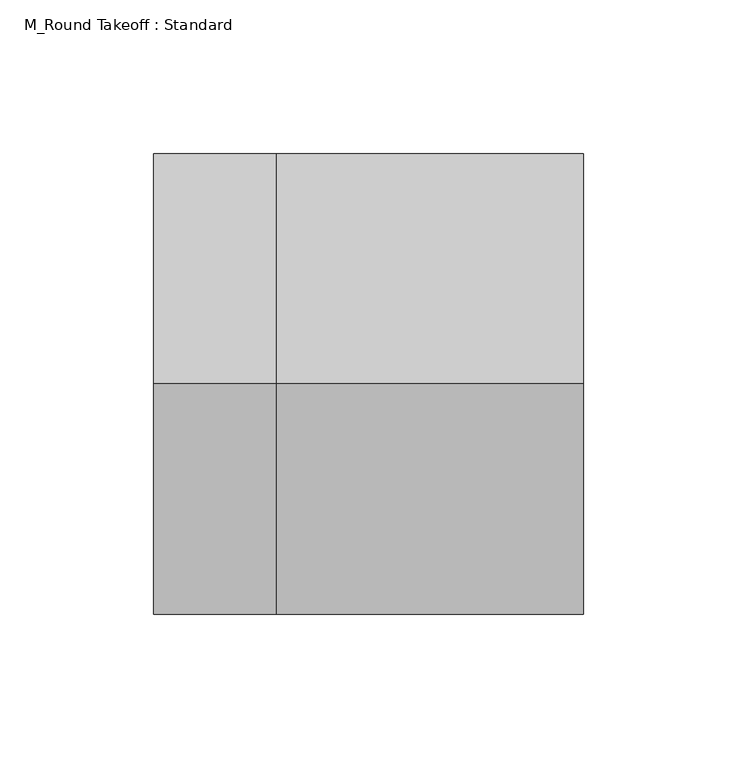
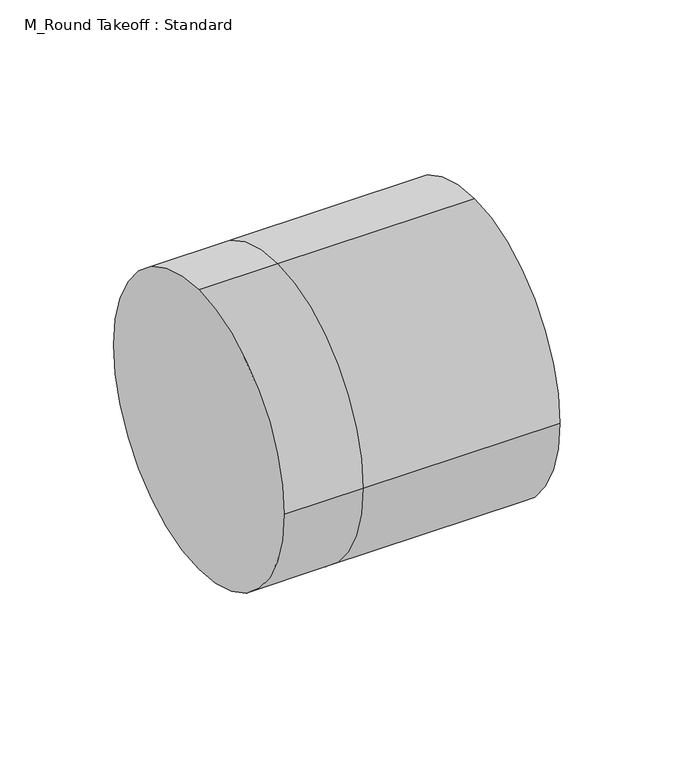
"""IFC4 building model written with IfcOpenShell, lengths in millimetres: duct fitting geometry, M_Round Takeoff : Standard."""

from ifc_helpers import new_model, si_unit, frame, origin, place, context, project, spatial, circle_curve, source, transform, mapped, element, save
from ifc_brep_helpers import plane_surface, cylinder_surface, advanced_brep


def m_round_takeoff_standard_fa4652c9(model_context):
    return source(origin(), model_context, "Body", "AdvancedBrep", [
        advanced_brep(
        [(-39.9949392, 0.0, 75.0), (-39.9949392, 75.0, 0.0), (-39.9949392, 0.0, -75.0), (-39.9949392, -75.0, 0.0), (0.0, -75.0, 0.0), (0.0, 0.0, 75.0), (0.0, 0.0, -75.0), (0.0, 75.0, 0.0), (100.0, 0.0, 75.0), (100.0, -75.0, 0.0), (100.0, 0.0, -75.0), (100.0, 75.0, 0.0)],
        [
            (0, 1, circle_curve(frame((-39.9949392, 0.0, 0.0), z_axis=(-1.0, 0.0, 0.0), x_axis=(0.0, -1.0, 0.0)), 75.0)),
            (1, 2, circle_curve(frame((-39.9949392, 0.0, 0.0), z_axis=(-1.0, 0.0, 0.0), x_axis=(0.0, -1.0, 0.0)), 75.0)),
            (2, 3, circle_curve(frame((-39.9949392, 0.0, 0.0), z_axis=(-1.0, 0.0, 0.0), x_axis=(0.0, -1.0, 0.0)), 75.0)),
            (3, 0, circle_curve(frame((-39.9949392, 0.0, 0.0), z_axis=(-1.0, 0.0, 0.0), x_axis=(0.0, -1.0, 0.0)), 75.0)),
            (3, 4),
            (4, 5, circle_curve(frame((0.0, 0.0, 0.0), z_axis=(-1.0, 0.0, 0.0), x_axis=(0.0, -1.0, 0.0)), 75.0)),
            (5, 0),
            (2, 6),
            (6, 4, circle_curve(frame((0.0, 0.0, 0.0), z_axis=(-1.0, 0.0, 0.0), x_axis=(0.0, -1.0, 0.0)), 75.0)),
            (1, 7),
            (7, 6, circle_curve(frame((0.0, 0.0, 0.0), z_axis=(-1.0, 0.0, 0.0), x_axis=(0.0, -1.0, 0.0)), 75.0)),
            (5, 7, circle_curve(frame((0.0, 0.0, 0.0), z_axis=(-1.0, 0.0, 0.0), x_axis=(0.0, -1.0, 0.0)), 75.0)),
            (8, 9, circle_curve(frame((100.0, 0.0, 0.0), z_axis=(1.0, 0.0, 0.0), x_axis=(0.0, -1.0, 0.0)), 75.0)),
            (9, 10, circle_curve(frame((100.0, 0.0, 0.0), z_axis=(1.0, 0.0, 0.0), x_axis=(0.0, -1.0, 0.0)), 75.0)),
            (10, 11, circle_curve(frame((100.0, 0.0, 0.0), z_axis=(1.0, 0.0, 0.0), x_axis=(0.0, -1.0, 0.0)), 75.0)),
            (11, 8, circle_curve(frame((100.0, 0.0, 0.0), z_axis=(1.0, 0.0, 0.0), x_axis=(0.0, -1.0, 0.0)), 75.0)),
            (8, 5),
            (4, 9),
            (6, 10),
            (7, 11),
        ],
        [
            plane_surface(frame((-39.9949392, 0.0, 0.0), z_axis=(-1.0, 0.0, 0.0), x_axis=(0.0, 0.0, 1.0))),
            cylinder_surface(frame((-39.9949392, 0.0, 0.0), z_axis=(-1.0, 0.0, 0.0), x_axis=(0.0, -1.0, 0.0)), 75.0),
            plane_surface(frame((100.0, 0.0, 0.0), z_axis=(1.0, 0.0, 0.0), x_axis=(0.0, 0.0, 1.0))),
            cylinder_surface(frame((0.0, 0.0, 0.0), z_axis=(-1.0, 0.0, 0.0), x_axis=(0.0, -1.0, 0.0)), 75.0),
        ],
        [
            (0, [[1, 2, 3, 4]]),
            (1, [[5, 6, 7, -4]]),
            (1, [[8, 9, -5, -3]]),
            (1, [[10, 11, -8, -2]]),
            (1, [[-7, 12, -10, -1]]),
            (2, [[13, 14, 15, 16]]),
            (3, [[17, -6, 18, -13]]),
            (3, [[-18, -9, 19, -14]]),
            (3, [[-19, -11, 20, -15]]),
            (3, [[-20, -12, -17, -16]]),
        ],
    ),
        advanced_brep(
        [(100.0, 0.0, 75.0), (100.0, -75.0, 0.0), (100.0, 0.0, -75.0), (100.0, 75.0, 0.0), (0.0, 0.0, 75.0), (0.0, -75.0, 0.0), (0.0, 0.0, -75.0), (0.0, 75.0, 0.0), (-39.9949392, 0.0, 75.0), (-39.9949392, 75.0, 0.0), (-39.9949392, 0.0, -75.0), (-39.9949392, -75.0, 0.0)],
        [
            (0, 1, circle_curve(frame((100.0, 0.0, 0.0), z_axis=(1.0, 0.0, 0.0), x_axis=(0.0, -1.0, 0.0)), 75.0)),
            (1, 2, circle_curve(frame((100.0, 0.0, 0.0), z_axis=(1.0, 0.0, 0.0), x_axis=(0.0, -1.0, 0.0)), 75.0)),
            (2, 3, circle_curve(frame((100.0, 0.0, 0.0), z_axis=(1.0, 0.0, 0.0), x_axis=(0.0, -1.0, 0.0)), 75.0)),
            (3, 0, circle_curve(frame((100.0, 0.0, 0.0), z_axis=(1.0, 0.0, 0.0), x_axis=(0.0, -1.0, 0.0)), 75.0)),
            (0, 4),
            (4, 5, circle_curve(frame((0.0, 0.0, 0.0), z_axis=(1.0, 0.0, 0.0), x_axis=(0.0, -1.0, 0.0)), 75.0)),
            (5, 1),
            (5, 6, circle_curve(frame((0.0, 0.0, 0.0), z_axis=(1.0, 0.0, 0.0), x_axis=(0.0, -1.0, 0.0)), 75.0)),
            (6, 2),
            (6, 7, circle_curve(frame((0.0, 0.0, 0.0), z_axis=(1.0, 0.0, 0.0), x_axis=(0.0, -1.0, 0.0)), 75.0)),
            (7, 3),
            (7, 4, circle_curve(frame((0.0, 0.0, 0.0), z_axis=(1.0, 0.0, 0.0), x_axis=(0.0, -1.0, 0.0)), 75.0)),
            (8, 9, circle_curve(frame((-39.9949392, 0.0, 0.0), z_axis=(-1.0, 0.0, 0.0), x_axis=(0.0, -1.0, 0.0)), 75.0)),
            (9, 10, circle_curve(frame((-39.9949392, 0.0, 0.0), z_axis=(-1.0, 0.0, 0.0), x_axis=(0.0, -1.0, 0.0)), 75.0)),
            (10, 11, circle_curve(frame((-39.9949392, 0.0, 0.0), z_axis=(-1.0, 0.0, 0.0), x_axis=(0.0, -1.0, 0.0)), 75.0)),
            (11, 8, circle_curve(frame((-39.9949392, 0.0, 0.0), z_axis=(-1.0, 0.0, 0.0), x_axis=(0.0, -1.0, 0.0)), 75.0)),
            (11, 5),
            (4, 8),
            (10, 6),
            (9, 7),
        ],
        [
            plane_surface(frame((100.0, 0.0, 0.0), z_axis=(1.0, 0.0, 0.0), x_axis=(0.0, 0.0, 1.0))),
            cylinder_surface(frame((0.0, 0.0, 0.0), z_axis=(-1.0, 0.0, 0.0), x_axis=(0.0, -1.0, 0.0)), 75.0),
            plane_surface(frame((-39.9949392, 0.0, 0.0), z_axis=(-1.0, 0.0, 0.0), x_axis=(0.0, 0.0, 1.0))),
            cylinder_surface(frame((-39.9949392, 0.0, 0.0), z_axis=(-1.0, 0.0, 0.0), x_axis=(0.0, -1.0, 0.0)), 75.0),
        ],
        [
            (0, [[1, 2, 3, 4]]),
            (1, [[5, 6, 7, -1]]),
            (1, [[-7, 8, 9, -2]]),
            (1, [[-9, 10, 11, -3]]),
            (1, [[-11, 12, -5, -4]]),
            (2, [[13, 14, 15, 16]]),
            (3, [[17, -6, 18, -16]]),
            (3, [[19, -8, -17, -15]]),
            (3, [[20, -10, -19, -14]]),
            (3, [[-18, -12, -20, -13]]),
        ],
    ),
        advanced_brep(
        [(-39.9949392, 0.0, 75.0), (-39.9949392, 75.0, 0.0), (-39.9949392, 0.0, -75.0), (-39.9949392, -75.0, 0.0), (0.0, -75.0, 0.0), (0.0, 0.0, 75.0), (0.0, 0.0, -75.0), (0.0, 75.0, 0.0), (100.0, 0.0, 75.0), (100.0, -75.0, 0.0), (100.0, 0.0, -75.0), (100.0, 75.0, 0.0)],
        [
            (0, 1, circle_curve(frame((-39.9949392, 0.0, 0.0), z_axis=(-1.0, 0.0, 0.0), x_axis=(0.0, -1.0, 0.0)), 75.0)),
            (1, 2, circle_curve(frame((-39.9949392, 0.0, 0.0), z_axis=(-1.0, 0.0, 0.0), x_axis=(0.0, -1.0, 0.0)), 75.0)),
            (2, 3, circle_curve(frame((-39.9949392, 0.0, 0.0), z_axis=(-1.0, 0.0, 0.0), x_axis=(0.0, -1.0, 0.0)), 75.0)),
            (3, 0, circle_curve(frame((-39.9949392, 0.0, 0.0), z_axis=(-1.0, 0.0, 0.0), x_axis=(0.0, -1.0, 0.0)), 75.0)),
            (3, 4),
            (4, 5, circle_curve(frame((0.0, 0.0, 0.0), z_axis=(-1.0, 0.0, 0.0), x_axis=(0.0, -1.0, 0.0)), 75.0)),
            (5, 0),
            (2, 6),
            (6, 4, circle_curve(frame((0.0, 0.0, 0.0), z_axis=(-1.0, 0.0, 0.0), x_axis=(0.0, -1.0, 0.0)), 75.0)),
            (1, 7),
            (7, 6, circle_curve(frame((0.0, 0.0, 0.0), z_axis=(-1.0, 0.0, 0.0), x_axis=(0.0, -1.0, 0.0)), 75.0)),
            (5, 7, circle_curve(frame((0.0, 0.0, 0.0), z_axis=(-1.0, 0.0, 0.0), x_axis=(0.0, -1.0, 0.0)), 75.0)),
            (8, 9, circle_curve(frame((100.0, 0.0, 0.0), z_axis=(1.0, 0.0, 0.0), x_axis=(0.0, -1.0, 0.0)), 75.0)),
            (9, 10, circle_curve(frame((100.0, 0.0, 0.0), z_axis=(1.0, 0.0, 0.0), x_axis=(0.0, -1.0, 0.0)), 75.0)),
            (10, 11, circle_curve(frame((100.0, 0.0, 0.0), z_axis=(1.0, 0.0, 0.0), x_axis=(0.0, -1.0, 0.0)), 75.0)),
            (11, 8, circle_curve(frame((100.0, 0.0, 0.0), z_axis=(1.0, 0.0, 0.0), x_axis=(0.0, -1.0, 0.0)), 75.0)),
            (8, 5),
            (4, 9),
            (6, 10),
            (7, 11),
        ],
        [
            plane_surface(frame((-39.9949392, 0.0, 0.0), z_axis=(-1.0, 0.0, 0.0), x_axis=(0.0, 0.0, 1.0))),
            cylinder_surface(frame((-39.9949392, 0.0, 0.0), z_axis=(-1.0, 0.0, 0.0), x_axis=(0.0, -1.0, 0.0)), 75.0),
            plane_surface(frame((100.0, 0.0, 0.0), z_axis=(1.0, 0.0, 0.0), x_axis=(0.0, 0.0, 1.0))),
            cylinder_surface(frame((0.0, 0.0, 0.0), z_axis=(-1.0, 0.0, 0.0), x_axis=(0.0, -1.0, 0.0)), 75.0),
        ],
        [
            (0, [[1, 2, 3, 4]]),
            (1, [[5, 6, 7, -4]]),
            (1, [[8, 9, -5, -3]]),
            (1, [[10, 11, -8, -2]]),
            (1, [[-7, 12, -10, -1]]),
            (2, [[13, 14, 15, 16]]),
            (3, [[17, -6, 18, -13]]),
            (3, [[-18, -9, 19, -14]]),
            (3, [[-19, -11, 20, -15]]),
            (3, [[-20, -12, -17, -16]]),
        ],
    ),
    ])


if __name__ == "__main__":
    model = new_model("IFC4")
    model_context = context("Model", 3, world=origin())
    ifc_project = project(units=[si_unit("LENGTHUNIT", "METRE", prefix="MILLI")], contexts=[model_context])
    site = spatial("IfcSite", under=ifc_project)
    building = spatial("IfcBuilding", under=site)
    placement = place(None, origin())
    m_round_takeoff_standard_shape = m_round_takeoff_standard_fa4652c9(model_context)
    element("IfcDuctFitting", 1, ObjectType="M_Round Takeoff : Standard", at=placement, inside=building, context=model_context, shape_type="MappedRepresentation", body=[
        mapped(m_round_takeoff_standard_shape, transform((0.0, 0.0, 0.0), x_axis=(1.0, 0.0, 0.0), y_axis=(0.0, 1.0, 0.0), z_axis=(0.0, 0.0, 1.0))),
    ])
    save(model, "model.ifc")
